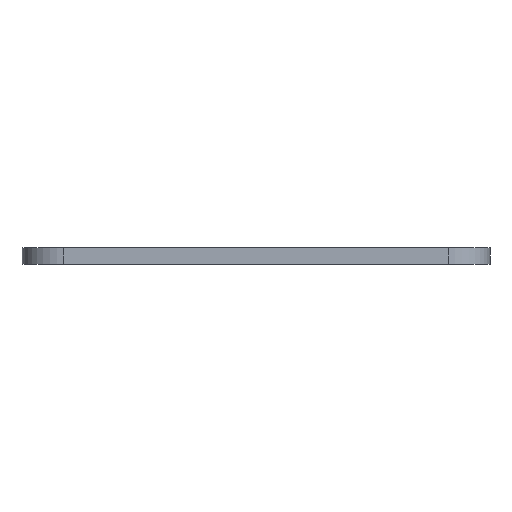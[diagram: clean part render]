
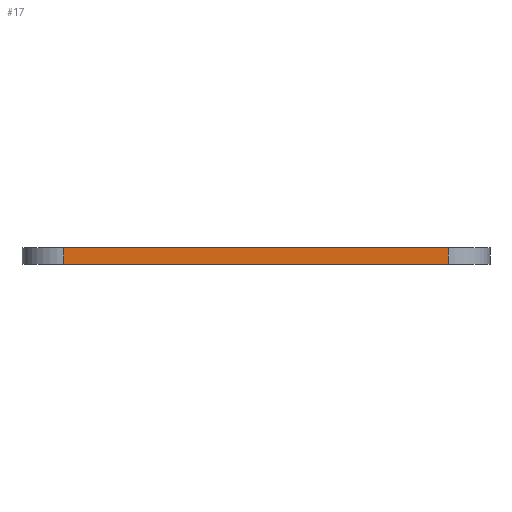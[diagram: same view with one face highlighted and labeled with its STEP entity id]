
A CAD part, left-side view. The second image highlights one B-rep face of the part: STEP entity #17.
In plain terms, the highlighted planar face has unit normal (-1, 0, 0).
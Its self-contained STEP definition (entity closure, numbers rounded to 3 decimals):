
#17 = ADVANCED_FACE('',(#18),#32,.F.);
#18 = FACE_BOUND('',#19,.F.);
#19 = EDGE_LOOP('',(#20,#55,#83,#111));
#20 = ORIENTED_EDGE('',*,*,#21,.F.);
#21 = EDGE_CURVE('',#22,#24,#26,.T.);
#22 = VERTEX_POINT('',#23);
#23 = CARTESIAN_POINT('',(-6.15,-53.05,3.79));
#24 = VERTEX_POINT('',#25);
#25 = CARTESIAN_POINT('',(-6.15,-42.95,3.79));
#26 = SURFACE_CURVE('',#27,(#31,#43),.PCURVE_S1.);
#27 = LINE('',#28,#29);
#28 = CARTESIAN_POINT('',(-6.15,-54.15,3.79));
#29 = VECTOR('',#30,1.);
#30 = DIRECTION('',(0.,1.,0.));
#31 = PCURVE('',#32,#37);
#32 = PLANE('',#33);
#33 = AXIS2_PLACEMENT_3D('',#34,#35,#36);
#34 = CARTESIAN_POINT('',(-6.15,-54.15,3.35));
#35 = DIRECTION('',(1.,0.,0.));
#36 = DIRECTION('',(0.,0.,1.));
#37 = DEFINITIONAL_REPRESENTATION('',(#38),#42);
#38 = LINE('',#39,#40);
#39 = CARTESIAN_POINT('',(0.44,0.));
#40 = VECTOR('',#41,1.);
#41 = DIRECTION('',(0.,-1.));
#42 = ( GEOMETRIC_REPRESENTATION_CONTEXT(2) 
PARAMETRIC_REPRESENTATION_CONTEXT() REPRESENTATION_CONTEXT('2D SPACE',''
  ) );
#43 = PCURVE('',#44,#49);
#44 = PLANE('',#45);
#45 = AXIS2_PLACEMENT_3D('',#46,#47,#48);
#46 = CARTESIAN_POINT('',(-6.15,-54.15,3.79));
#47 = DIRECTION('',(0.,0.,1.));
#48 = DIRECTION('',(1.,0.,0.));
#49 = DEFINITIONAL_REPRESENTATION('',(#50),#54);
#50 = LINE('',#51,#52);
#51 = CARTESIAN_POINT('',(0.,0.));
#52 = VECTOR('',#53,1.);
#53 = DIRECTION('',(0.,1.));
#54 = ( GEOMETRIC_REPRESENTATION_CONTEXT(2) 
PARAMETRIC_REPRESENTATION_CONTEXT() REPRESENTATION_CONTEXT('2D SPACE',''
  ) );
#55 = ORIENTED_EDGE('',*,*,#56,.F.);
#56 = EDGE_CURVE('',#57,#22,#59,.T.);
#57 = VERTEX_POINT('',#58);
#58 = CARTESIAN_POINT('',(-6.15,-53.05,3.35));
#59 = SURFACE_CURVE('',#60,(#64,#71),.PCURVE_S1.);
#60 = LINE('',#61,#62);
#61 = CARTESIAN_POINT('',(-6.15,-53.05,3.35));
#62 = VECTOR('',#63,1.);
#63 = DIRECTION('',(0.,0.,1.));
#64 = PCURVE('',#32,#65);
#65 = DEFINITIONAL_REPRESENTATION('',(#66),#70);
#66 = LINE('',#67,#68);
#67 = CARTESIAN_POINT('',(0.,-1.1));
#68 = VECTOR('',#69,1.);
#69 = DIRECTION('',(1.,0.));
#70 = ( GEOMETRIC_REPRESENTATION_CONTEXT(2) 
PARAMETRIC_REPRESENTATION_CONTEXT() REPRESENTATION_CONTEXT('2D SPACE',''
  ) );
#71 = PCURVE('',#72,#77);
#72 = CYLINDRICAL_SURFACE('',#73,1.1);
#73 = AXIS2_PLACEMENT_3D('',#74,#75,#76);
#74 = CARTESIAN_POINT('',(-5.05,-53.05,3.35));
#75 = DIRECTION('',(0.,0.,1.));
#76 = DIRECTION('',(-1.,-0.,0.));
#77 = DEFINITIONAL_REPRESENTATION('',(#78),#82);
#78 = LINE('',#79,#80);
#79 = CARTESIAN_POINT('',(0.,0.));
#80 = VECTOR('',#81,1.);
#81 = DIRECTION('',(0.,1.));
#82 = ( GEOMETRIC_REPRESENTATION_CONTEXT(2) 
PARAMETRIC_REPRESENTATION_CONTEXT() REPRESENTATION_CONTEXT('2D SPACE',''
  ) );
#83 = ORIENTED_EDGE('',*,*,#84,.T.);
#84 = EDGE_CURVE('',#57,#85,#87,.T.);
#85 = VERTEX_POINT('',#86);
#86 = CARTESIAN_POINT('',(-6.15,-42.95,3.35));
#87 = SURFACE_CURVE('',#88,(#92,#99),.PCURVE_S1.);
#88 = LINE('',#89,#90);
#89 = CARTESIAN_POINT('',(-6.15,-54.15,3.35));
#90 = VECTOR('',#91,1.);
#91 = DIRECTION('',(0.,1.,0.));
#92 = PCURVE('',#32,#93);
#93 = DEFINITIONAL_REPRESENTATION('',(#94),#98);
#94 = LINE('',#95,#96);
#95 = CARTESIAN_POINT('',(0.,0.));
#96 = VECTOR('',#97,1.);
#97 = DIRECTION('',(0.,-1.));
#98 = ( GEOMETRIC_REPRESENTATION_CONTEXT(2) 
PARAMETRIC_REPRESENTATION_CONTEXT() REPRESENTATION_CONTEXT('2D SPACE',''
  ) );
#99 = PCURVE('',#100,#105);
#100 = PLANE('',#101);
#101 = AXIS2_PLACEMENT_3D('',#102,#103,#104);
#102 = CARTESIAN_POINT('',(-6.15,-54.15,3.35));
#103 = DIRECTION('',(0.,0.,1.));
#104 = DIRECTION('',(1.,0.,0.));
#105 = DEFINITIONAL_REPRESENTATION('',(#106),#110);
#106 = LINE('',#107,#108);
#107 = CARTESIAN_POINT('',(0.,0.));
#108 = VECTOR('',#109,1.);
#109 = DIRECTION('',(0.,1.));
#110 = ( GEOMETRIC_REPRESENTATION_CONTEXT(2) 
PARAMETRIC_REPRESENTATION_CONTEXT() REPRESENTATION_CONTEXT('2D SPACE',''
  ) );
#111 = ORIENTED_EDGE('',*,*,#112,.T.);
#112 = EDGE_CURVE('',#85,#24,#113,.T.);
#113 = SURFACE_CURVE('',#114,(#118,#125),.PCURVE_S1.);
#114 = LINE('',#115,#116);
#115 = CARTESIAN_POINT('',(-6.15,-42.95,3.35));
#116 = VECTOR('',#117,1.);
#117 = DIRECTION('',(0.,0.,1.));
#118 = PCURVE('',#32,#119);
#119 = DEFINITIONAL_REPRESENTATION('',(#120),#124);
#120 = LINE('',#121,#122);
#121 = CARTESIAN_POINT('',(0.,-11.2));
#122 = VECTOR('',#123,1.);
#123 = DIRECTION('',(1.,0.));
#124 = ( GEOMETRIC_REPRESENTATION_CONTEXT(2) 
PARAMETRIC_REPRESENTATION_CONTEXT() REPRESENTATION_CONTEXT('2D SPACE',''
  ) );
#125 = PCURVE('',#126,#131);
#126 = CYLINDRICAL_SURFACE('',#127,1.1);
#127 = AXIS2_PLACEMENT_3D('',#128,#129,#130);
#128 = CARTESIAN_POINT('',(-5.05,-42.95,3.35));
#129 = DIRECTION('',(0.,0.,1.));
#130 = DIRECTION('',(-1.,-0.,0.));
#131 = DEFINITIONAL_REPRESENTATION('',(#132),#136);
#132 = LINE('',#133,#134);
#133 = CARTESIAN_POINT('',(-0.,0.));
#134 = VECTOR('',#135,1.);
#135 = DIRECTION('',(-0.,1.));
#136 = ( GEOMETRIC_REPRESENTATION_CONTEXT(2) 
PARAMETRIC_REPRESENTATION_CONTEXT() REPRESENTATION_CONTEXT('2D SPACE',''
  ) );
